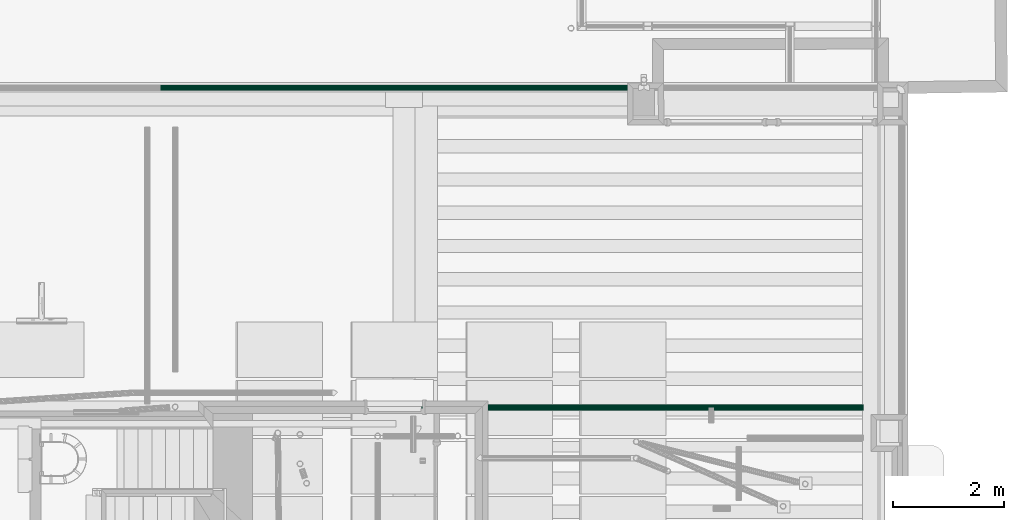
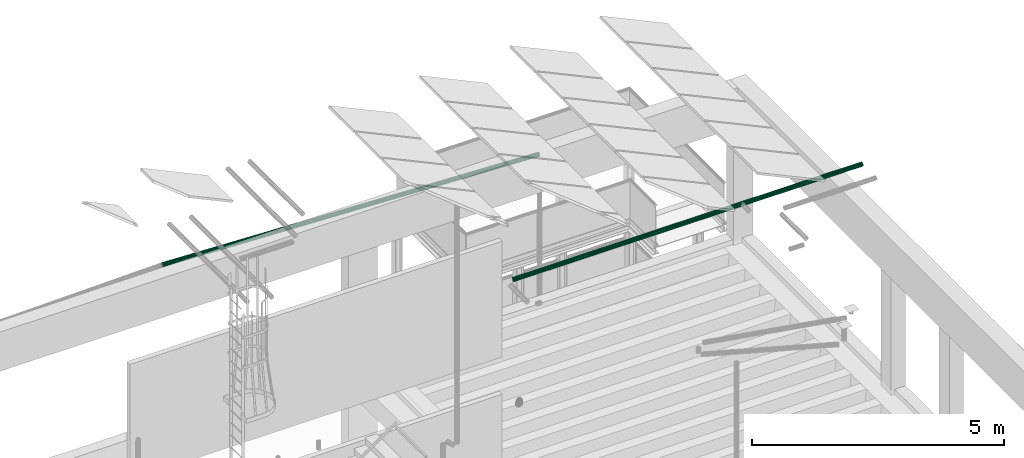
# One storey, part 65 of 106: 2 flow segments.
"""IFC2X3 building model written with IfcOpenShell, lengths in metres."""

from ifc_helpers import new_model, entity, si_unit, converted_unit, derived_unit, money_unit, direction, frame, origin_with_axes, place, context, subcontext, project, spatial, faceted_brep, material, type_object, element, save


model = new_model("IFC2X3")

# Units and contexts
model_context = context("Model", 3, precision=1e-05, world=origin_with_axes(), true_north=direction((0.0, 1.0)))
body_context = subcontext(model_context, "Body", "Model", "MODEL_VIEW", scale=1.0)
ifc_project = project(units=[si_unit("LENGTHUNIT", "METRE"), si_unit("AREAUNIT", "SQUARE_METRE"), si_unit("VOLUMEUNIT", "CUBIC_METRE"), si_unit("ABSORBEDDOSEUNIT", "GRAY"), si_unit("AMOUNTOFSUBSTANCEUNIT", "MOLE"), si_unit("DOSEEQUIVALENTUNIT", "SIEVERT"), si_unit("ELECTRICCAPACITANCEUNIT", "FARAD"), si_unit("ELECTRICCHARGEUNIT", "COULOMB"), si_unit("ELECTRICCONDUCTANCEUNIT", "SIEMENS"), si_unit("ELECTRICCURRENTUNIT", "AMPERE"), si_unit("ELECTRICRESISTANCEUNIT", "OHM"), si_unit("ELECTRICVOLTAGEUNIT", "VOLT"), si_unit("ENERGYUNIT", "JOULE"), si_unit("FORCEUNIT", "NEWTON"), si_unit("FREQUENCYUNIT", "HERTZ"), si_unit("ILLUMINANCEUNIT", "LUX"), si_unit("INDUCTANCEUNIT", "HENRY"), si_unit("LUMINOUSFLUXUNIT", "LUMEN"), si_unit("LUMINOUSINTENSITYUNIT", "CANDELA"), si_unit("MAGNETICFLUXDENSITYUNIT", "TESLA"), si_unit("MAGNETICFLUXUNIT", "WEBER"), si_unit("MASSUNIT", "GRAM"), converted_unit("PLANEANGLEUNIT", "degree", entity("IfcReal", 0.0174532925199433), si_unit("PLANEANGLEUNIT", "RADIAN"), dimensions=[0, 0, 0, 0, 0, 0, 0]), si_unit("POWERUNIT", "WATT"), si_unit("PRESSUREUNIT", "PASCAL"), si_unit("RADIOACTIVITYUNIT", "BECQUEREL"), si_unit("SOLIDANGLEUNIT", "STERADIAN"), si_unit("THERMODYNAMICTEMPERATUREUNIT", "KELVIN"), si_unit("TIMEUNIT", "SECOND"), derived_unit("ACCELERATIONUNIT", [(si_unit("LENGTHUNIT", "METRE"), 1), (si_unit("TIMEUNIT", "SECOND"), -2)]), derived_unit("ANGULARVELOCITYUNIT", [(converted_unit("PLANEANGLEUNIT", "degree", entity("IfcReal", 0.0174532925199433), si_unit("PLANEANGLEUNIT", "RADIAN"), dimensions=[0, 0, 0, 0, 0, 0, 0]), 1), (si_unit("TIMEUNIT", "SECOND"), -1)]), derived_unit("CURVATUREUNIT", [(converted_unit("PLANEANGLEUNIT", "degree", entity("IfcReal", 0.0174532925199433), si_unit("PLANEANGLEUNIT", "RADIAN"), dimensions=[0, 0, 0, 0, 0, 0, 0]), 1), (si_unit("LENGTHUNIT", "METRE"), -1)]), derived_unit("DYNAMICVISCOSITYUNIT", [(si_unit("PRESSUREUNIT", "PASCAL"), 1), (si_unit("TIMEUNIT", "SECOND"), 1)]), derived_unit("HEATFLUXDENSITYUNIT", [(si_unit("POWERUNIT", "WATT"), 1), (si_unit("LENGTHUNIT", "METRE"), -2)]), derived_unit("HEATINGVALUEUNIT", [(si_unit("ENERGYUNIT", "JOULE"), 1), (si_unit("MASSUNIT", "GRAM"), -1)]), derived_unit("INTEGERCOUNTRATEUNIT", [(si_unit("TIMEUNIT", "SECOND"), -1)]), derived_unit("IONCONCENTRATIONUNIT", [(si_unit("MASSUNIT", "GRAM"), 1), (si_unit("VOLUMEUNIT", "CUBIC_METRE"), -1)]), derived_unit("ISOTHERMALMOISTURECAPACITYUNIT", [(si_unit("VOLUMEUNIT", "CUBIC_METRE"), 1), (si_unit("MASSUNIT", "GRAM"), -1)]), derived_unit("KINEMATICVISCOSITYUNIT", [(si_unit("AREAUNIT", "SQUARE_METRE"), 1), (si_unit("TIMEUNIT", "SECOND"), -1)]), derived_unit("LINEARFORCEUNIT", [(si_unit("FORCEUNIT", "NEWTON"), 1), (si_unit("LENGTHUNIT", "METRE"), -1)]), derived_unit("LINEARMOMENTUNIT", [(si_unit("FORCEUNIT", "NEWTON"), 1), (si_unit("LENGTHUNIT", "METRE"), -1)]), derived_unit("LINEARSTIFFNESSUNIT", [(si_unit("FORCEUNIT", "NEWTON"), 1), (si_unit("LENGTHUNIT", "METRE"), -1)]), derived_unit("LINEARVELOCITYUNIT", [(si_unit("LENGTHUNIT", "METRE"), 1), (si_unit("TIMEUNIT", "SECOND"), -1)]), derived_unit("LUMINOUSINTENSITYDISTRIBUTIONUNIT", [(si_unit("LUMINOUSINTENSITYUNIT", "CANDELA"), 1), (si_unit("LUMINOUSFLUXUNIT", "LUMEN"), -1)]), derived_unit("MASSDENSITYUNIT", [(si_unit("MASSUNIT", "GRAM"), 1), (si_unit("VOLUMEUNIT", "CUBIC_METRE"), -1)]), derived_unit("MASSFLOWRATEUNIT", [(si_unit("MASSUNIT", "GRAM"), 1), (si_unit("TIMEUNIT", "SECOND"), -1)]), derived_unit("MASSPERLENGTHUNIT", [(si_unit("MASSUNIT", "GRAM"), 1), (si_unit("LENGTHUNIT", "METRE"), -1)]), derived_unit("MODULUSOFELASTICITYUNIT", [(si_unit("FORCEUNIT", "NEWTON"), 1), (si_unit("AREAUNIT", "SQUARE_METRE"), -1)]), derived_unit("MODULUSOFLINEARSUBGRADEREACTIONUNIT", [(si_unit("FORCEUNIT", "NEWTON"), 1), (si_unit("LENGTHUNIT", "METRE"), -2)]), derived_unit("MODULUSOFROTATIONALSUBGRADEREACTIONUNIT", [(si_unit("FORCEUNIT", "NEWTON"), 1), (si_unit("LENGTHUNIT", "METRE"), 1)]), derived_unit("MODULUSOFSUBGRADEREACTIONUNIT", [(si_unit("FORCEUNIT", "NEWTON"), 1), (si_unit("VOLUMEUNIT", "CUBIC_METRE"), -1)]), derived_unit("MOISTUREDIFFUSIVITYUNIT", [(si_unit("VOLUMEUNIT", "CUBIC_METRE"), 1), (si_unit("TIMEUNIT", "SECOND"), -1)]), derived_unit("MOLECULARWEIGHTUNIT", [(si_unit("MASSUNIT", "GRAM"), 1), (si_unit("AMOUNTOFSUBSTANCEUNIT", "MOLE"), -1)]), derived_unit("PLANARFORCEUNIT", [(si_unit("FORCEUNIT", "NEWTON"), 1), (si_unit("LENGTHUNIT", "METRE"), -2)]), derived_unit("ROTATIONALFREQUENCYUNIT", [(si_unit("TIMEUNIT", "SECOND"), -1)]), derived_unit("ROTATIONALMASSUNIT", [(si_unit("MASSUNIT", "GRAM"), 1), (si_unit("LENGTHUNIT", "METRE"), 2)]), derived_unit("ROTATIONALSTIFFNESSUNIT", [(si_unit("FORCEUNIT", "NEWTON"), 1), (si_unit("LENGTHUNIT", "METRE"), 1), (converted_unit("PLANEANGLEUNIT", "degree", entity("IfcReal", 0.0174532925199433), si_unit("PLANEANGLEUNIT", "RADIAN"), dimensions=[0, 0, 0, 0, 0, 0, 0]), -1)]), derived_unit("SECTIONAREAINTEGRALUNIT", [(si_unit("LENGTHUNIT", "METRE"), 5)]), derived_unit("SECTIONMODULUSUNIT", [(si_unit("LENGTHUNIT", "METRE"), 3)]), derived_unit("SHEARMODULUSUNIT", [(si_unit("FORCEUNIT", "NEWTON"), 1), (si_unit("AREAUNIT", "SQUARE_METRE"), -1)]), derived_unit("SOUNDPOWERUNIT", [(si_unit("ENERGYUNIT", "JOULE"), 1), (si_unit("TIMEUNIT", "SECOND"), -1)]), derived_unit("SPECIFICHEATCAPACITYUNIT", [(si_unit("FORCEUNIT", "NEWTON"), 1), (si_unit("MASSUNIT", "GRAM"), -1), (si_unit("THERMODYNAMICTEMPERATUREUNIT", "KELVIN"), -1)]), derived_unit("TEMPERATUREGRADIENTUNIT", [(si_unit("THERMODYNAMICTEMPERATUREUNIT", "KELVIN"), 1), (si_unit("LENGTHUNIT", "METRE"), -1)]), derived_unit("THERMALADMITTANCEUNIT", [(si_unit("POWERUNIT", "WATT"), 1), (si_unit("AREAUNIT", "SQUARE_METRE"), -1), (si_unit("THERMODYNAMICTEMPERATUREUNIT", "KELVIN"), -1)]), derived_unit("THERMALCONDUCTANCEUNIT", [(si_unit("POWERUNIT", "WATT"), 1), (si_unit("LENGTHUNIT", "METRE"), -1), (si_unit("THERMODYNAMICTEMPERATUREUNIT", "KELVIN"), -1)]), derived_unit("THERMALEXPANSIONCOEFFICIENTUNIT", [(si_unit("THERMODYNAMICTEMPERATUREUNIT", "KELVIN"), -1)]), derived_unit("THERMALRESISTANCEUNIT", [(si_unit("AREAUNIT", "SQUARE_METRE"), 1), (si_unit("POWERUNIT", "WATT"), -1)]), derived_unit("THERMALTRANSMITTANCEUNIT", [(si_unit("POWERUNIT", "WATT"), 1), (si_unit("AREAUNIT", "SQUARE_METRE"), -1), (si_unit("THERMODYNAMICTEMPERATUREUNIT", "KELVIN"), -1)]), derived_unit("TORQUEUNIT", [(si_unit("FORCEUNIT", "NEWTON"), 1), (si_unit("LENGTHUNIT", "METRE"), 1)]), derived_unit("VAPORPERMEABILITYUNIT", [(si_unit("MASSUNIT", "GRAM"), 1), (si_unit("TIMEUNIT", "SECOND"), -1)]), derived_unit("VOLUMETRICFLOWRATEUNIT", [(si_unit("VOLUMEUNIT", "CUBIC_METRE"), 1), (si_unit("TIMEUNIT", "SECOND"), -1)]), derived_unit("WARPINGCONSTANTUNIT", [(si_unit("LENGTHUNIT", "METRE"), 6)]), derived_unit("WARPINGMOMENTUNIT", [(si_unit("FORCEUNIT", "NEWTON"), 1), (si_unit("LENGTHUNIT", "METRE"), 2)]), money_unit("GBP")], contexts=[model_context])

# Site, building, storey
site_placement = place(None, origin_with_axes())
site = spatial("IfcSite", under=ifc_project, at=site_placement, Name="Site", CompositionType="ELEMENT")
building_placement = place(site_placement, origin_with_axes())
building = spatial("IfcBuilding", under=site, at=building_placement, Name="Building01", CompositionType="ELEMENT")
storey_placement = place(building_placement, origin_with_axes())
storey = spatial("IfcBuildingStorey", under=building, at=storey_placement, Name="GF", CompositionType="ELEMENT", Elevation=0.0)

# Flow segments
ifc_material_1 = material(Name="M_BSUK_Ventilation")
duct_segment_type = type_object("IfcDuctSegmentType", Name="M-RoundDuct", PredefinedType="RIGIDSEGMENT")
flow_segment_1_placement = place(storey_placement, frame((18.2, 9.032559, 17.28), z_axis=(0.0, 0.0, 1.0), x_axis=(1.0, 0.0, 0.0)))
element("IfcFlowSegment", 1, at=flow_segment_1_placement, inside=storey, type_object=duct_segment_type, material=ifc_material_1, Name="M-RoundDuct", ObjectType="M-RoundDuct", context=body_context, shape_type="Brep", body=[
    faceted_brep([(7.980061, 0.0, -0.05), (0.0, 0.0, -0.05), (0.0, 0.019134, -0.046194), (7.980061, 0.019134, -0.046194), (0.0, 0.035355, -0.035355), (7.980061, 0.035355, -0.035355), (0.0, 0.046194, -0.019134), (7.980061, 0.046194, -0.019134), (0.0, 0.05, 0.0), (7.980061, 0.05, 0.0), (0.0, 0.046194, 0.019134), (7.980061, 0.046194, 0.019134), (0.0, 0.035355, 0.035355), (7.980061, 0.035355, 0.035355), (0.0, 0.019134, 0.046194), (7.980061, 0.019134, 0.046194), (0.0, 0.0, 0.05), (7.980061, 0.0, 0.05), (0.0, -0.019134, 0.046194), (7.980061, -0.019134, 0.046194), (0.0, -0.035355, 0.035355), (7.980061, -0.035355, 0.035355), (0.0, -0.046194, 0.019134), (7.980061, -0.046194, 0.019134), (0.0, -0.05, 0.0), (7.980061, -0.05, 0.0), (0.0, -0.046194, -0.019134), (7.980061, -0.046194, -0.019134), (0.0, -0.035355, -0.035355), (7.980061, -0.035355, -0.035355), (0.0, -0.019134, -0.046194), (7.980061, -0.019134, -0.046194)], [[[0, 1, 2, 3]], [[3, 2, 4, 5]], [[5, 4, 6, 7]], [[7, 6, 8, 9]], [[9, 8, 10, 11]], [[11, 10, 12, 13]], [[13, 12, 14, 15]], [[15, 14, 16, 17]], [[17, 16, 18, 19]], [[19, 18, 20, 21]], [[21, 20, 22, 23]], [[23, 22, 24, 25]], [[25, 24, 26, 27]], [[27, 26, 28, 29]], [[29, 28, 30, 31]], [[31, 30, 1, 0]]]),
])
ifc_material_2 = material(Name="M_BSUK_ColdWater")
pipe_segment_type = type_object("IfcPipeSegmentType", Name="M-BmpStraightpipe-DefaultPipe", PredefinedType="RIGIDSEGMENT")
flow_segment_2_placement = place(storey_placement, frame((22.117988, 14.80601, 15.439163), z_axis=(0.0, -1.0, 0.0), x_axis=(-0.99922022, 0.0, 0.03948356)))
element("IfcFlowSegment", 2, at=flow_segment_2_placement, inside=storey, type_object=pipe_segment_type, material=ifc_material_2, Name="M-BmpStraightpipe-DefaultPipe", ObjectType="M-BmpStraightpipe-DefaultPipe", context=body_context, shape_type="Brep", body=[
    faceted_brep([(8.636026, 0.0, -0.05), (0.0, 0.0, -0.05), (0.0, 0.019134, -0.046194), (8.636026, 0.019134, -0.046194), (0.0, 0.035355, -0.035355), (8.636026, 0.035355, -0.035355), (0.0, 0.046194, -0.019134), (8.636026, 0.046194, -0.019134), (0.0, 0.05, 0.0), (8.636026, 0.05, 0.0), (0.0, 0.046194, 0.019134), (8.636026, 0.046194, 0.019134), (0.0, 0.035355, 0.035355), (8.636026, 0.035355, 0.035355), (0.0, 0.019134, 0.046194), (8.636026, 0.019134, 0.046194), (0.0, 0.0, 0.05), (8.636026, 0.0, 0.05), (0.0, -0.019134, 0.046194), (8.636026, -0.019134, 0.046194), (0.0, -0.035355, 0.035355), (8.636026, -0.035355, 0.035355), (0.0, -0.046194, 0.019134), (8.636026, -0.046194, 0.019134), (0.0, -0.05, 0.0), (8.636026, -0.05, 0.0), (0.0, -0.046194, -0.019134), (8.636026, -0.046194, -0.019134), (0.0, -0.035355, -0.035355), (8.636026, -0.035355, -0.035355), (0.0, -0.019134, -0.046194), (8.636026, -0.019134, -0.046194)], [[[0, 1, 2, 3]], [[3, 2, 4, 5]], [[5, 4, 6, 7]], [[7, 6, 8, 9]], [[9, 8, 10, 11]], [[11, 10, 12, 13]], [[13, 12, 14, 15]], [[15, 14, 16, 17]], [[17, 16, 18, 19]], [[19, 18, 20, 21]], [[21, 20, 22, 23]], [[23, 22, 24, 25]], [[25, 24, 26, 27]], [[27, 26, 28, 29]], [[29, 28, 30, 31]], [[31, 30, 1, 0]]]),
])

save(model, "model.ifc")
